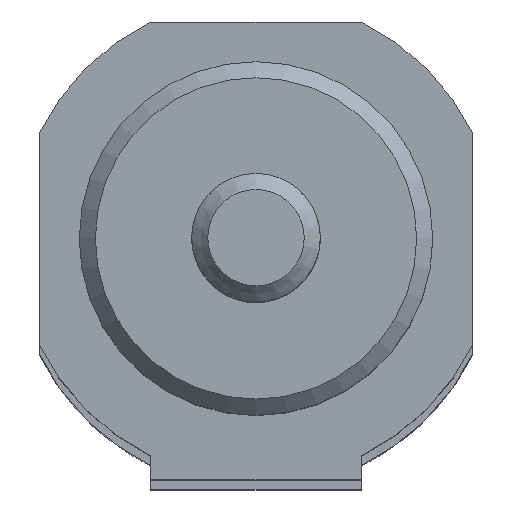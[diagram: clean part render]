
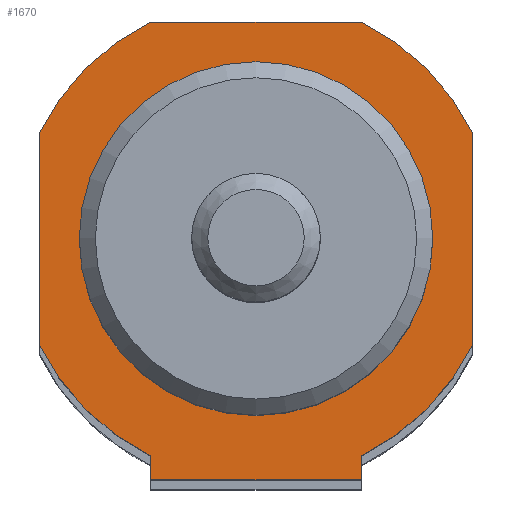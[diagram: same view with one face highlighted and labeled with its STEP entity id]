
A CAD part, top view. The second image highlights one B-rep face of the part: STEP entity #1670.
In plain terms, the highlighted planar face has unit normal (0, 0, 1).
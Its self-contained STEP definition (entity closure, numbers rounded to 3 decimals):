
#192=CARTESIAN_POINT('',(6.538,-15.,381.));
#193=VERTEX_POINT('',#192);
#194=CARTESIAN_POINT('',(-6.538,-15.,381.));
#195=VERTEX_POINT('',#194);
#196=CARTESIAN_POINT('',(6.538,-15.,381.));
#197=DIRECTION('',(-1.0,0.0,0.0));
#198=VECTOR('',#197,13.077);
#199=LINE('',#196,#198);
#200=EDGE_CURVE('',#193,#195,#199,.T.);
#319=CARTESIAN_POINT('',(-6.538,-13.5,381.));
#320=VERTEX_POINT('',#319);
#334=CARTESIAN_POINT('',(-6.538,-13.5,381.));
#335=DIRECTION('',(0.0,-1.0,0.0));
#336=VECTOR('',#335,1.5);
#337=LINE('',#334,#336);
#338=EDGE_CURVE('',#320,#195,#337,.T.);
#350=CARTESIAN_POINT('',(6.538,-13.5,381.));
#351=VERTEX_POINT('',#350);
#358=CARTESIAN_POINT('',(6.538,-13.5,381.));
#359=DIRECTION('',(0.0,-1.0,0.0));
#360=VECTOR('',#359,1.5);
#361=LINE('',#358,#360);
#362=EDGE_CURVE('',#351,#193,#361,.T.);
#1398=CARTESIAN_POINT('',(11.0,0.,381.));
#1399=VERTEX_POINT('',#1398);
#1400=CARTESIAN_POINT('',(0.,0.,381.));
#1401=DIRECTION('',(0.0,0.0,-1.0));
#1402=DIRECTION('',(-1.0,0.0,0.0));
#1403=AXIS2_PLACEMENT_3D('',#1400,#1401,#1402);
#1404=CIRCLE('',#1403,11.0);
#1405=EDGE_CURVE('',#1399,#1399,#1404,.T.);
#1490=CARTESIAN_POINT('',(-6.538,13.5,381.));
#1491=VERTEX_POINT('',#1490);
#1492=CARTESIAN_POINT('',(6.538,13.5,381.));
#1493=VERTEX_POINT('',#1492);
#1494=CARTESIAN_POINT('',(-6.538,13.5,381.));
#1495=DIRECTION('',(1.0,0.0,0.0));
#1496=VECTOR('',#1495,13.077);
#1497=LINE('',#1494,#1496);
#1498=EDGE_CURVE('',#1491,#1493,#1497,.T.);
#1521=CARTESIAN_POINT('',(13.5,6.538,381.));
#1522=VERTEX_POINT('',#1521);
#1523=CARTESIAN_POINT('',(0.,0.,381.0));
#1524=DIRECTION('',(0.,0.,-1.0));
#1525=DIRECTION('',(0.9,0.436,0.));
#1526=AXIS2_PLACEMENT_3D('',#1523,#1524,#1525);
#1527=CIRCLE('',#1526,15.);
#1528=EDGE_CURVE('',#1493,#1522,#1527,.T.);
#1546=CARTESIAN_POINT('',(13.5,-6.538,381.));
#1547=VERTEX_POINT('',#1546);
#1548=CARTESIAN_POINT('',(13.5,6.538,381.));
#1549=DIRECTION('',(0.0,-1.0,0.0));
#1550=VECTOR('',#1549,13.077);
#1551=LINE('',#1548,#1550);
#1552=EDGE_CURVE('',#1522,#1547,#1551,.T.);
#1570=CARTESIAN_POINT('',(0.,0.,381.0));
#1571=DIRECTION('',(0.,0.,-1.0));
#1572=DIRECTION('',(0.436,-0.9,0.));
#1573=AXIS2_PLACEMENT_3D('',#1570,#1571,#1572);
#1574=CIRCLE('',#1573,15.);
#1575=EDGE_CURVE('',#1547,#351,#1574,.T.);
#1588=CARTESIAN_POINT('',(-13.5,-6.538,381.));
#1589=VERTEX_POINT('',#1588);
#1590=CARTESIAN_POINT('',(0.,0.,381.0));
#1591=DIRECTION('',(0.,0.,-1.0));
#1592=DIRECTION('',(-0.9,-0.436,0.));
#1593=AXIS2_PLACEMENT_3D('',#1590,#1591,#1592);
#1594=CIRCLE('',#1593,15.);
#1595=EDGE_CURVE('',#320,#1589,#1594,.T.);
#1613=CARTESIAN_POINT('',(-13.5,6.538,381.));
#1614=VERTEX_POINT('',#1613);
#1615=CARTESIAN_POINT('',(-13.5,-6.538,381.));
#1616=DIRECTION('',(0.0,1.0,0.0));
#1617=VECTOR('',#1616,13.077);
#1618=LINE('',#1615,#1617);
#1619=EDGE_CURVE('',#1589,#1614,#1618,.T.);
#1637=CARTESIAN_POINT('',(0.,0.,381.0));
#1638=DIRECTION('',(0.,0.,-1.0));
#1639=DIRECTION('',(-0.436,0.9,0.));
#1640=AXIS2_PLACEMENT_3D('',#1637,#1638,#1639);
#1641=CIRCLE('',#1640,15.);
#1642=EDGE_CURVE('',#1614,#1491,#1641,.T.);
#1650=CARTESIAN_POINT('',(0.,0.0,381.));
#1651=DIRECTION('',(0.0,0.0,1.0));
#1652=DIRECTION('',(1.0,0.0,0.0));
#1653=AXIS2_PLACEMENT_3D('',#1650,#1651,#1652);
#1654=PLANE('',#1653);
#1655=ORIENTED_EDGE('',*,*,#1498,.F.);
#1656=ORIENTED_EDGE('',*,*,#1642,.F.);
#1657=ORIENTED_EDGE('',*,*,#1619,.F.);
#1658=ORIENTED_EDGE('',*,*,#1595,.F.);
#1659=ORIENTED_EDGE('',*,*,#338,.T.);
#1660=ORIENTED_EDGE('',*,*,#200,.F.);
#1661=ORIENTED_EDGE('',*,*,#362,.F.);
#1662=ORIENTED_EDGE('',*,*,#1575,.F.);
#1663=ORIENTED_EDGE('',*,*,#1552,.F.);
#1664=ORIENTED_EDGE('',*,*,#1528,.F.);
#1665=EDGE_LOOP('',(#1655,#1656,#1657,#1658,#1659,#1660,#1661,#1662,#1663,#1664));
#1666=FACE_OUTER_BOUND('',#1665,.T.);
#1667=ORIENTED_EDGE('',*,*,#1405,.T.);
#1668=EDGE_LOOP('',(#1667));
#1669=FACE_BOUND('',#1668,.T.);
#1670=ADVANCED_FACE('',(#1666,#1669),#1654,.T.);
